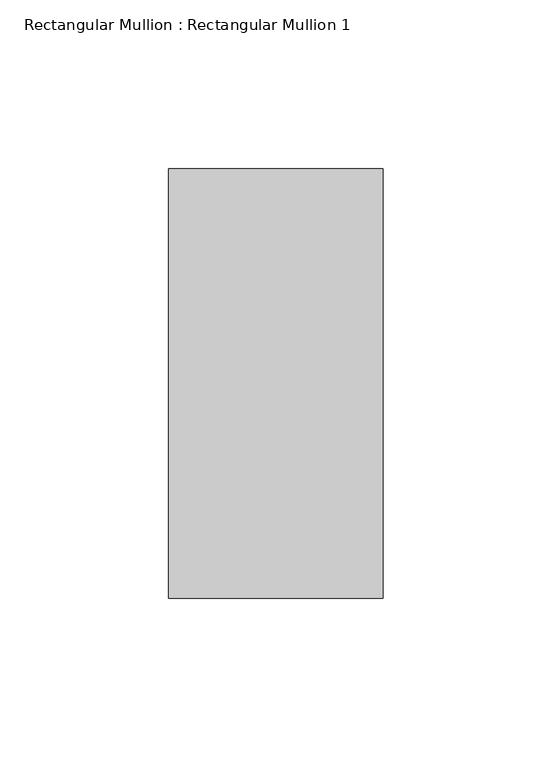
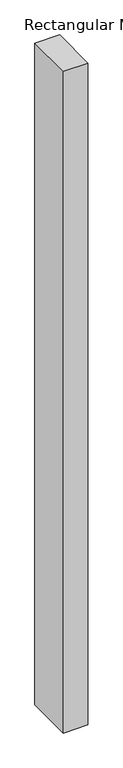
"""IFC4 building model written with IfcOpenShell, lengths in millimetres: member geometry, Rectangular Mullion : Rectangular Mullion 1."""

from ifc_helpers import new_model, si_unit, frame, origin, place, context, project, spatial, polyline, outline, extrude, source, transform, mapped, element, save


def rectangular_mullion_rectangular_mullion_1_51fb7a7d(model_context):
    return source(origin(), model_context, "Body", "SweptSolid", [
        extrude(outline(polyline([(0.0, 63.5), (0.0, -63.5), (-63.5, -63.5), (-63.5, 63.5), (0.0, 63.5)])), frame((0.0, 0.0, -1804.7500002), z_axis=(0.0, 0.0, 1.0), x_axis=(1.0, 0.0, 0.0)), (0.0, 0.0, 1.0), 1804.7500002),
    ])


if __name__ == "__main__":
    model = new_model("IFC4")
    model_context = context("Model", 3, world=origin())
    ifc_project = project(units=[si_unit("LENGTHUNIT", "METRE", prefix="MILLI")], contexts=[model_context])
    site = spatial("IfcSite", under=ifc_project)
    building = spatial("IfcBuilding", under=site)
    placement = place(None, origin())
    rectangular_mullion_rectangular_mullion_1_shape = rectangular_mullion_rectangular_mullion_1_51fb7a7d(model_context)
    element("IfcMember", 1, ObjectType="Rectangular Mullion : Rectangular Mullion 1", at=placement, inside=building, context=model_context, shape_type="MappedRepresentation", body=[
        mapped(rectangular_mullion_rectangular_mullion_1_shape, transform((0.0, 0.0, 0.0), x_axis=(1.0, 0.0, 0.0), y_axis=(0.0, 1.0, 0.0), z_axis=(0.0, 0.0, 1.0))),
    ])
    save(model, "model.ifc")
